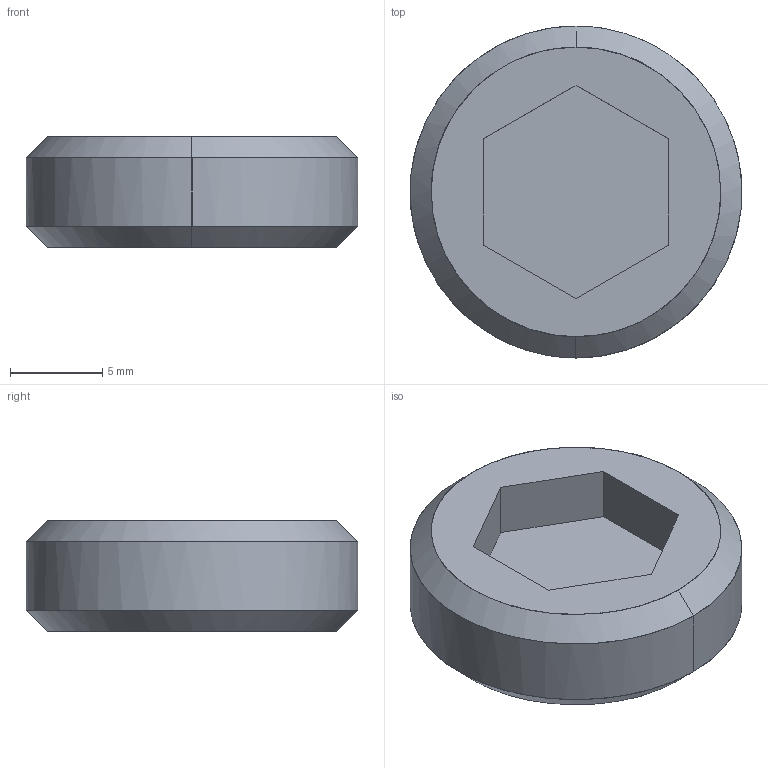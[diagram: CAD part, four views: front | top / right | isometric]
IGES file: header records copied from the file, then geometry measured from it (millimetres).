
Global section: file name: E:\UnigraphicsGraphicData\MISUMI_PRESS-PARTS\IGES\3d_msws18-6_00522_r00.igs; native system: NX V5.0; preprocessor: UGS NX IGES V5.0; author: MISUMI; date: 20110105.161525; units: millimetre
Bounding box: 17.99 x 18 x 6 mm (x, y, z)
Surface area: 873.8 mm2 (no closed solid volume)
Topology: 0 solids, 0 shells, 15 faces, 76 edges, 76 vertices
Faces by surface type: bspline 15
